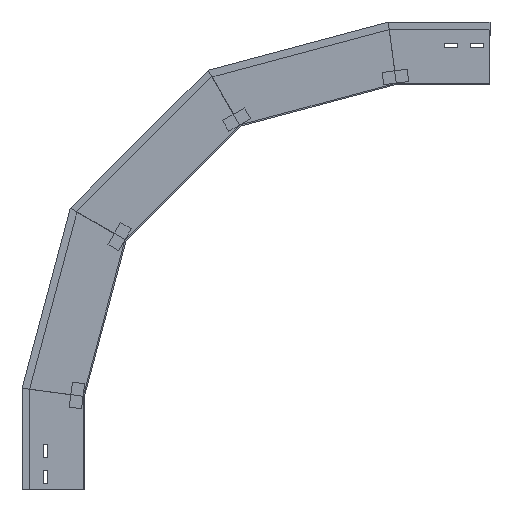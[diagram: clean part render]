
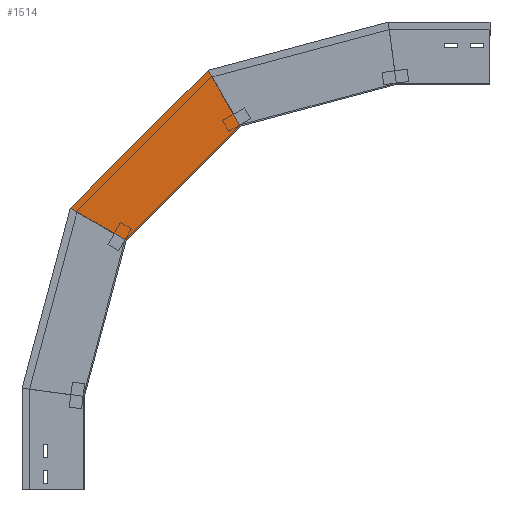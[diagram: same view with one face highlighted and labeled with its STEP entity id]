
A CAD part, left-side view. The second image highlights one B-rep face of the part: STEP entity #1514.
In plain terms, the highlighted planar face has unit normal (-1, 0, 0) as drawn and (1, 0, 0) by its records, which use the part's own axes.
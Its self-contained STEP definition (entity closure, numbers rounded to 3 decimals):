
#185 = CARTESIAN_POINT ( 'NONE',  ( 0., -198.411, 672.973 ) ) ;
#236 = LINE ( 'NONE', #695, #1471 ) ;
#369 = VERTEX_POINT ( 'NONE', #470 ) ;
#397 = EDGE_CURVE ( 'NONE', #369, #1709, #1043, .T. ) ;
#420 = ORIENTED_EDGE ( 'NONE', *, *, #584, .T. ) ;
#430 = EDGE_LOOP ( 'NONE', ( #683, #420, #1516, #707 ) ) ;
#470 = CARTESIAN_POINT ( 'NONE',  ( 0., 22.623, 451.939 ) ) ;
#518 = VECTOR ( 'NONE', #560, 1000. ) ;
#549 = DIRECTION ( 'NONE',  ( 0., 0., -1. ) ) ;
#560 = DIRECTION ( 'NONE',  ( 0., -0.866, -0.5 ) ) ;
#584 = EDGE_CURVE ( 'NONE', #1709, #1254, #236, .T. ) ;
#590 = CARTESIAN_POINT ( 'NONE',  ( 0., -46.122, 379.263 ) ) ;
#616 = VERTEX_POINT ( 'NONE', #1430 ) ;
#670 = AXIS2_PLACEMENT_3D ( 'NONE', #825, #1851, #549 ) ;
#683 = ORIENTED_EDGE ( 'NONE', *, *, #397, .T. ) ;
#695 = CARTESIAN_POINT ( 'NONE',  ( 0., -287.519, 518.633 ) ) ;
#707 = ORIENTED_EDGE ( 'NONE', *, *, #1227, .F. ) ;
#728 = DIRECTION ( 'NONE',  ( 0., -0.707, 0.707 ) ) ;
#734 = EDGE_CURVE ( 'NONE', #616, #1254, #1015, .T. ) ;
#815 = PLANE ( 'NONE',  #670 ) ;
#825 = CARTESIAN_POINT ( 'NONE',  ( 0., -46.122, 379.263 ) ) ;
#967 = VECTOR ( 'NONE', #728, 1000. ) ;
#1015 = LINE ( 'NONE', #590, #967 ) ;
#1043 = LINE ( 'NONE', #1434, #1349 ) ;
#1102 = FACE_OUTER_BOUND ( 'NONE', #430, .T. ) ;
#1149 = LINE ( 'NONE', #1872, #518 ) ;
#1227 = EDGE_CURVE ( 'NONE', #369, #616, #1149, .T. ) ;
#1254 = VERTEX_POINT ( 'NONE', #1738 ) ;
#1287 = DIRECTION ( 'NONE',  ( 0., -0.707, 0.707 ) ) ;
#1349 = VECTOR ( 'NONE', #1287, 1000. ) ;
#1430 = CARTESIAN_POINT ( 'NONE',  ( 0., -67.034, 400.175 ) ) ;
#1434 = CARTESIAN_POINT ( 'NONE',  ( 0., 24.589, 449.973 ) ) ;
#1471 = VECTOR ( 'NONE', #1847, 1000. ) ;
#1514 = ADVANCED_FACE ( 'NONE', ( #1102 ), #815, .T. ) ;
#1516 = ORIENTED_EDGE ( 'NONE', *, *, #734, .F. ) ;
#1709 = VERTEX_POINT ( 'NONE', #185 ) ;
#1738 = CARTESIAN_POINT ( 'NONE',  ( 0., -250.175, 583.315 ) ) ;
#1847 = DIRECTION ( 'NONE',  ( 0., -0.5, -0.866 ) ) ;
#1851 = DIRECTION ( 'NONE',  ( 1., 0., 0. ) ) ;
#1872 = CARTESIAN_POINT ( 'NONE',  ( 0., -128.356, 364.771 ) ) ;
